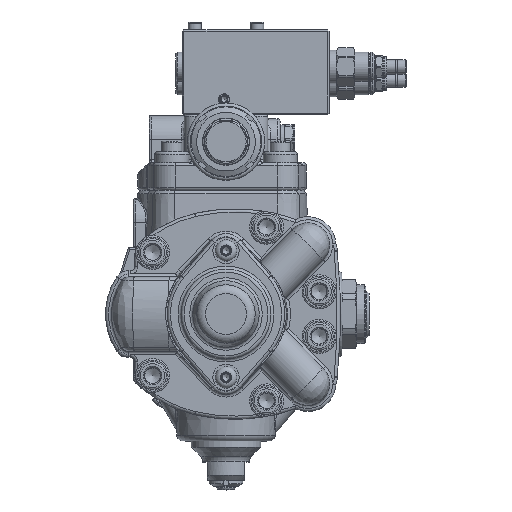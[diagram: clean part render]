
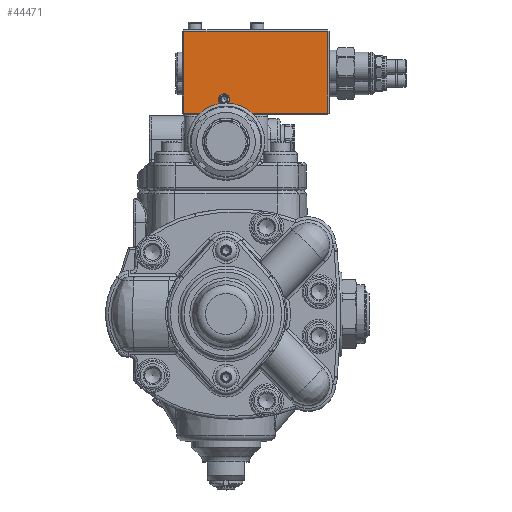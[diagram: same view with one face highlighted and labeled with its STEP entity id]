
A CAD part, top view. The second image highlights one B-rep face of the part: STEP entity #44471.
In plain terms, the highlighted planar face has unit normal (0, 0, 1).
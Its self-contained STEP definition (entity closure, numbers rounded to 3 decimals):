
#1183=FACE_BOUND('',#8284,.T.);
#2084=PLANE('',#48599);
#5683=FACE_OUTER_BOUND('',#8283,.T.);
#8283=EDGE_LOOP('',(#37330,#37331,#37332,#37333));
#8284=EDGE_LOOP('',(#37334));
#10620=CIRCLE('',#48600,3.6);
#13263=LINE('',#88699,#15748);
#13264=LINE('',#88701,#15749);
#13265=LINE('',#88703,#15750);
#13266=LINE('',#88704,#15751);
#15748=VECTOR('',#59060,10.);
#15749=VECTOR('',#59061,10.);
#15750=VECTOR('',#59062,10.);
#15751=VECTOR('',#59063,10.);
#19557=VERTEX_POINT('',#88697);
#19558=VERTEX_POINT('',#88698);
#19559=VERTEX_POINT('',#88700);
#19560=VERTEX_POINT('',#88702);
#19561=VERTEX_POINT('',#88705);
#25641=EDGE_CURVE('',#19557,#19558,#13263,.T.);
#25642=EDGE_CURVE('',#19559,#19557,#13264,.T.);
#25643=EDGE_CURVE('',#19560,#19559,#13265,.T.);
#25644=EDGE_CURVE('',#19558,#19560,#13266,.T.);
#25645=EDGE_CURVE('',#19561,#19561,#10620,.T.);
#37330=ORIENTED_EDGE('',*,*,#25641,.F.);
#37331=ORIENTED_EDGE('',*,*,#25642,.F.);
#37332=ORIENTED_EDGE('',*,*,#25643,.F.);
#37333=ORIENTED_EDGE('',*,*,#25644,.F.);
#37334=ORIENTED_EDGE('',*,*,#25645,.T.);
#44471=ADVANCED_FACE('',(#5683,#1183),#2084,.T.);
#48599=AXIS2_PLACEMENT_3D('',#88696,#59058,#59059);
#48600=AXIS2_PLACEMENT_3D('',#88706,#59064,#59065);
#59058=DIRECTION('center_axis',(0.,0.,
1.));
#59059=DIRECTION('ref_axis',(0.,1.,0.));
#59060=DIRECTION('',(1.,0.,0.));
#59061=DIRECTION('',(0.,1.,0.));
#59062=DIRECTION('',(-1.,0.,0.));
#59063=DIRECTION('',(0.,-1.,0.));
#59064=DIRECTION('center_axis',(0.,0.,
-1.));
#59065=DIRECTION('ref_axis',(1.,0.,0.));
#88696=CARTESIAN_POINT('Origin',(100.297,174.193,74.283));
#88697=CARTESIAN_POINT('',(101.297,173.193,74.283));
#88698=CARTESIAN_POINT('',(194.297,173.193,74.283));
#88699=CARTESIAN_POINT('',(124.047,173.193,74.283));
#88700=CARTESIAN_POINT('',(101.297,120.193,74.283));
#88701=CARTESIAN_POINT('',(101.297,174.193,74.283));
#88702=CARTESIAN_POINT('',(194.297,120.193,74.283));
#88703=CARTESIAN_POINT('',(124.047,120.193,74.283));
#88704=CARTESIAN_POINT('',(194.297,174.193,74.283));
#88705=CARTESIAN_POINT('',(123.697,129.193,74.283));
#88706=CARTESIAN_POINT('Origin',(127.297,129.193,74.283));
